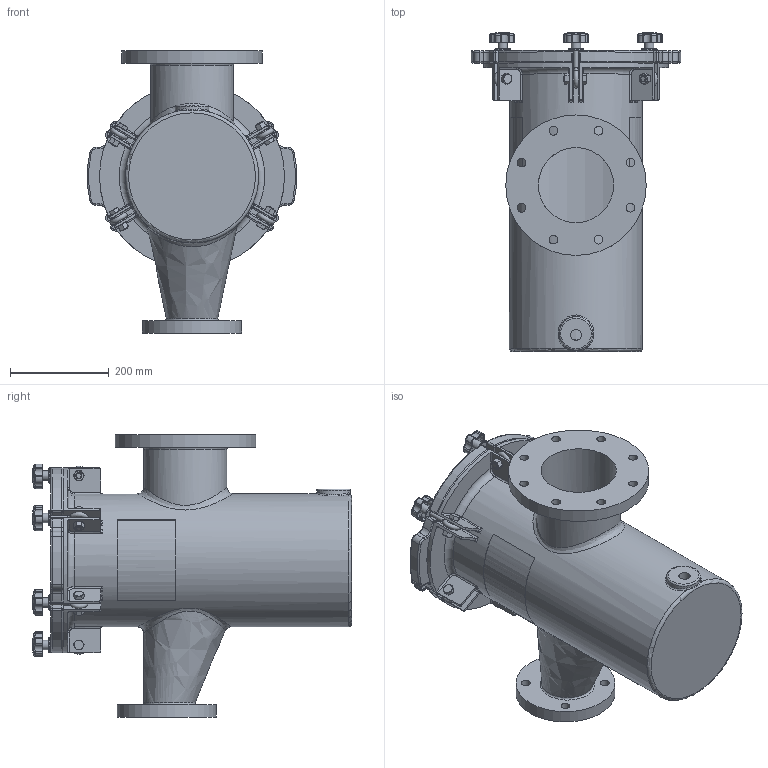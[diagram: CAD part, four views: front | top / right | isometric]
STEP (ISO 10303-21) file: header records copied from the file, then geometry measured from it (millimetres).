
FILE_DESCRIPTION(/* description */ ('150MM X 80MM FIBERGLASS STRAINER BODY'),/* implementation_level */ '2;1');
FILE_NAME(/* name */ 'E:\New folder (7)\Ready for delivery - Do not Disturb -Updated with metric Flange\Workspace\FG Reducing Strainer\Guardian FG Reducing H&L Strainer (Metric)\STRAINER H&L 150MM X 80MM.step',/* time_stamp */ '2016-10-19T04:14:02+06:00',/* author */ ('20076253'),/* organization */ (''),/* preprocessor_version */ 'ST-DEVELOPER v16.1',/* originating_system */ 'Autodesk Inventor 2016',/* authorisation */ '');
FILE_SCHEMA (('AUTOMOTIVE_DESIGN { 1 0 10303 214 3 1 1 }'));
Length unit declared in the file: inch
Products named in the file (18): NBFGBODY06X03MM; 150NBCVR48R1; 150NBGSK48R1; Perforated Basket 10in; Bride (Ring) 10in; Baffle 10in; Handle 10in; Bottom Strainer 10in; NBBSK08T316; Nut- 1_2  UNC; Bolt-1_2 x 1 1_2  UNC; EyeBolt; Washer; Knob M10; Securing Assembly For FG without Brace; Label for 10.625 inch (Right); Label for 10.625 inch (Left); STRAINER H&L 150MM X  80MM
Assembly tree (22 placements, depth 3):
  STRAINER H&L 150MM X  80MM
    NBFGBODY06X03MM
    150NBCVR48R1
    150NBGSK48R1
    NBBSK08T316
      Perforated Basket 10in
      Bride (Ring) 10in
      Baffle 10in
      Handle 10in
      Bottom Strainer 10in
    Securing Assembly For FG without Brace  x6
      Nut- 1_2  UNC
      Bolt-1_2 x 1 1_2  UNC
      EyeBolt
      Washer
      Knob M10
    Label for 10.625 inch (Right)
    Label for 10.625 inch (Left)
Bounding box: 424.18 x 646.2 x 571.5 mm (x, y, z)
Volume: 11215241.7 mm3; surface area: 2750072.4 mm2
Topology: 40 solids, 40 shells, 1265 faces, 2900 edges, 1714 vertices
Faces by surface type: cylinder 459, plane 330, cone 138, torus 124, bspline 112, sphere 102
Full cylindrical faces by diameter (mm): 3.175 x10, 6.35 x2, 8.382 x6, 9.525 x12, 10.592 x6, 12.7 x6, 15.875 x12, 17.78 x12, 19 x12, 19.05 x6, 22.809 x1, 31.75 x6, 68.263 x1, 152.4 x1, 168.275 x1, 187.325 x2, 190.5 x1, 193.04 x1, 200.66 x1, 254 x2, 266.7 x1, 269.875 x1, 276.225 x1, 284.48 x1, 311.15 x1, 317.5 x1
Entity records: 25953 total; most frequent: CARTESIAN_POINT 10131, DIRECTION 3268, ORIENTED_EDGE 2980, EDGE_CURVE 1490, AXIS2_PLACEMENT_3D 1378, VERTEX_POINT 942, EDGE_LOOP 840, CIRCLE 693
